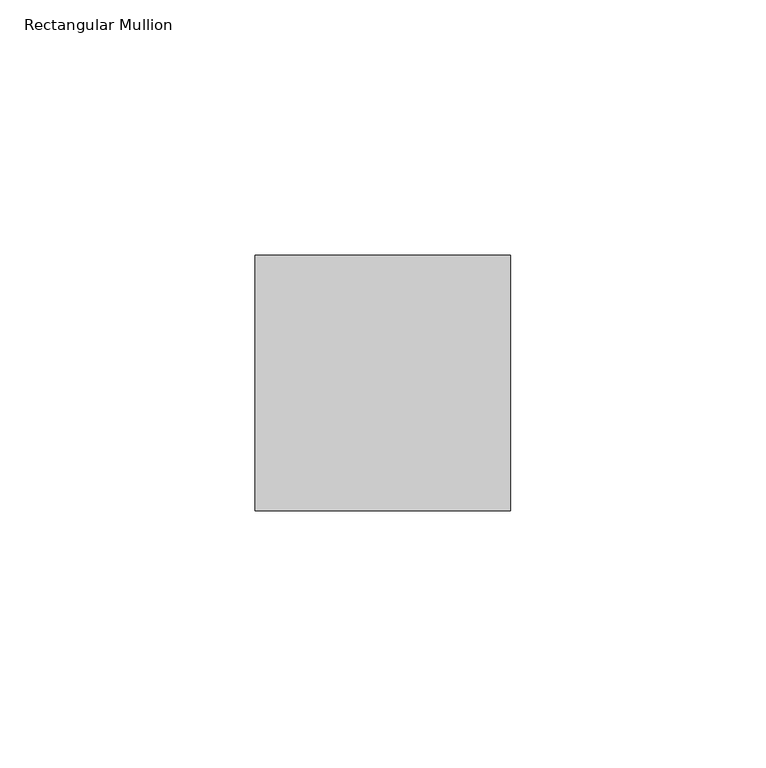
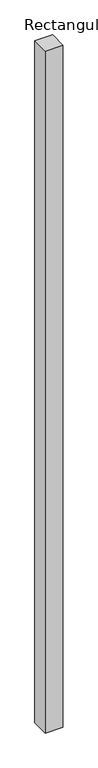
"""IFC4 building model written with IfcOpenShell, lengths in millimetres: member geometry, Rectangular Mullion : Mullion_Curtain Wall_Generic Showcase_50x50mm."""

from ifc_helpers import new_model, si_unit, frame, origin, place, context, project, spatial, polyline, outline, extrude, source, transform, mapped, element, save


def rectangular_mullion_f88d7aad(model_context):
    return source(origin(), model_context, "Body", "SweptSolid", [
        extrude(outline(polyline([(25.0, 0.0), (25.0, -50.0), (-25.0, -50.0), (-25.0, 0.0), (25.0, 0.0)])), frame((0.0, 0.0, -2025.0), z_axis=(0.0, 0.0, 1.0), x_axis=(1.0, 0.0, 0.0)), (0.0, 0.0, 1.0), 2025.0),
    ])


if __name__ == "__main__":
    model = new_model("IFC4")
    model_context = context("Model", 3, world=origin())
    ifc_project = project(units=[si_unit("LENGTHUNIT", "METRE", prefix="MILLI")], contexts=[model_context])
    site = spatial("IfcSite", under=ifc_project)
    building = spatial("IfcBuilding", under=site)
    placement = place(None, origin())
    rectangular_mullion_shape = rectangular_mullion_f88d7aad(model_context)
    element("IfcMember", 1, ObjectType="Rectangular Mullion : Mullion_Curtain Wall_Generic Showcase_50x50mm", at=placement, inside=building, context=model_context, shape_type="MappedRepresentation", body=[
        mapped(rectangular_mullion_shape, transform((0.0, 0.0, 0.0), x_axis=(1.0, 0.0, 0.0), y_axis=(0.0, 1.0, 0.0), z_axis=(0.0, 0.0, 1.0))),
    ])
    save(model, "model.ifc")
